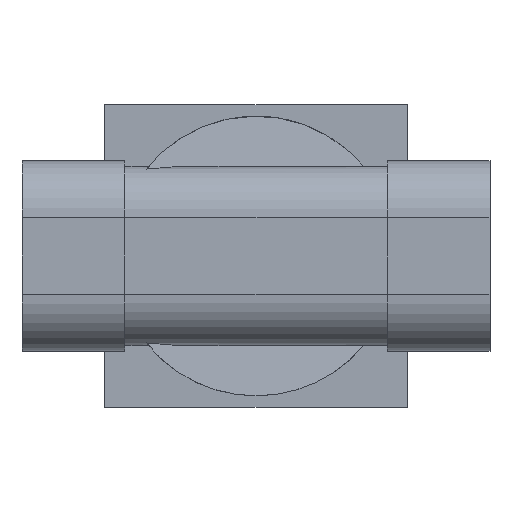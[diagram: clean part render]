
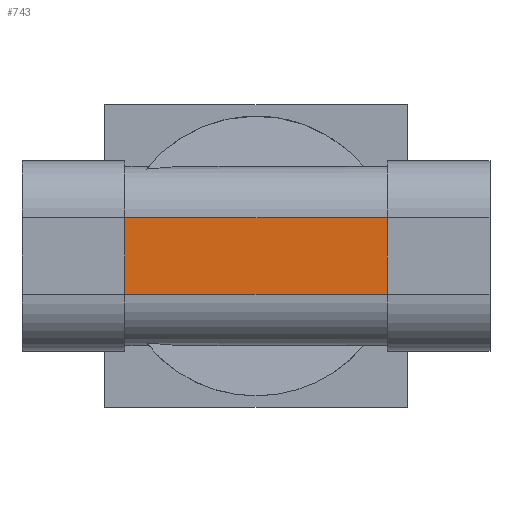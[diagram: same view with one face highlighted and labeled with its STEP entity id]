
A CAD part, front view. The second image highlights one B-rep face of the part: STEP entity #743.
In plain terms, the highlighted planar face has unit normal (0, -1, 0).
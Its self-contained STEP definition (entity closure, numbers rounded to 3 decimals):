
#606 = DIRECTION ( 'NONE',  ( 0., 0., 1. ) ) ;
#743 = ADVANCED_FACE ( 'NONE', ( #7937 ), #7133, .F. ) ;
#876 = DIRECTION ( 'NONE',  ( 0., 0., 1. ) ) ;
#1176 = VERTEX_POINT ( 'NONE', #11732 ) ;
#1328 = CARTESIAN_POINT ( 'NONE',  ( 23., -15.5, -6.7 ) ) ;
#1995 = CARTESIAN_POINT ( 'NONE',  ( 41., -15.5, 6.7 ) ) ;
#2511 = EDGE_CURVE ( 'NONE', #1176, #11353, #4524, .T. ) ;
#2919 = VERTEX_POINT ( 'NONE', #9112 ) ;
#3464 = LINE ( 'NONE', #7511, #15718 ) ;
#3593 = LINE ( 'NONE', #16388, #8412 ) ;
#3689 = CARTESIAN_POINT ( 'NONE',  ( 41., -15.5, -6.7 ) ) ;
#4524 = LINE ( 'NONE', #8262, #9958 ) ;
#4652 = ORIENTED_EDGE ( 'NONE', *, *, #16349, .F. ) ;
#4944 = EDGE_LOOP ( 'NONE', ( #7086, #4652, #5409, #6170 ) ) ;
#5409 = ORIENTED_EDGE ( 'NONE', *, *, #16245, .T. ) ;
#5719 = EDGE_CURVE ( 'NONE', #11353, #2919, #3464, .T. ) ;
#6170 = ORIENTED_EDGE ( 'NONE', *, *, #5719, .F. ) ;
#6180 = VECTOR ( 'NONE', #10090, 1000. ) ;
#7086 = ORIENTED_EDGE ( 'NONE', *, *, #2511, .F. ) ;
#7133 = PLANE ( 'NONE',  #16412 ) ;
#7511 = CARTESIAN_POINT ( 'NONE',  ( 41., -15.5, 6.7 ) ) ;
#7937 = FACE_OUTER_BOUND ( 'NONE', #4944, .T. ) ;
#8262 = CARTESIAN_POINT ( 'NONE',  ( -23., -15.5, 6.7 ) ) ;
#8412 = VECTOR ( 'NONE', #876, 1000. ) ;
#9112 = CARTESIAN_POINT ( 'NONE',  ( 23., -15.5, 6.7 ) ) ;
#9958 = VECTOR ( 'NONE', #606, 1000. ) ;
#10090 = DIRECTION ( 'NONE',  ( -1., 0., 0. ) ) ;
#10955 = DIRECTION ( 'NONE',  ( 0., 1., 0. ) ) ;
#11176 = VERTEX_POINT ( 'NONE', #1328 ) ;
#11353 = VERTEX_POINT ( 'NONE', #16618 ) ;
#11732 = CARTESIAN_POINT ( 'NONE',  ( -23., -15.5, -6.7 ) ) ;
#12803 = LINE ( 'NONE', #3689, #6180 ) ;
#14837 = DIRECTION ( 'NONE',  ( 0., 0., 1. ) ) ;
#15527 = DIRECTION ( 'NONE',  ( 1., 0., 0. ) ) ;
#15718 = VECTOR ( 'NONE', #15527, 1000. ) ;
#16245 = EDGE_CURVE ( 'NONE', #11176, #2919, #3593, .T. ) ;
#16349 = EDGE_CURVE ( 'NONE', #11176, #1176, #12803, .T. ) ;
#16388 = CARTESIAN_POINT ( 'NONE',  ( 23., -15.5, 6.7 ) ) ;
#16412 = AXIS2_PLACEMENT_3D ( 'NONE', #1995, #10955, #14837 ) ;
#16618 = CARTESIAN_POINT ( 'NONE',  ( -23., -15.5, 6.7 ) ) ;
